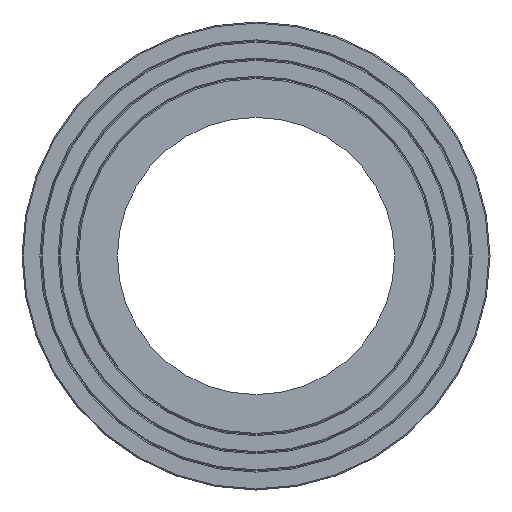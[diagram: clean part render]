
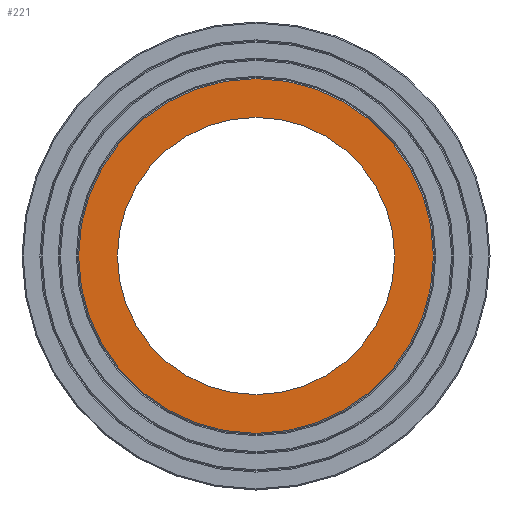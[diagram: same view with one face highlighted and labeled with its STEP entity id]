
A CAD part, left-side view. The second image highlights one B-rep face of the part: STEP entity #221.
In plain terms, the highlighted planar face has unit normal (-1, 0, 0).
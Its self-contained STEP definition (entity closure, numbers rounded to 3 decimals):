
#36=ORIENTED_EDGE('',*,*,#76,.F.);
#37=ORIENTED_EDGE('',*,*,#77,.T.);
#76=EDGE_CURVE('',#96,#96,#116,.T.);
#77=EDGE_CURVE('',#97,#97,#117,.T.);
#96=VERTEX_POINT('',#383);
#97=VERTEX_POINT('',#385);
#116=CIRCLE('',#257,182.4);
#117=CIRCLE('',#258,233.5);
#136=EDGE_LOOP('',(#36));
#137=EDGE_LOOP('',(#37));
#176=FACE_BOUND('',#136,.T.);
#177=FACE_BOUND('',#137,.T.);
#215=PLANE('',#256);
#221=ADVANCED_FACE('',(#176,#177),#215,.F.);
#256=AXIS2_PLACEMENT_3D('',#381,#301,#302);
#257=AXIS2_PLACEMENT_3D('',#382,#303,#304);
#258=AXIS2_PLACEMENT_3D('',#384,#305,#306);
#301=DIRECTION('',(1.,0.,0.));
#302=DIRECTION('',(0.,0.,-1.));
#303=DIRECTION('',(-1.,0.,0.));
#304=DIRECTION('',(0.,0.,1.));
#305=DIRECTION('',(-1.,0.,0.));
#306=DIRECTION('',(0.,0.,1.));
#381=CARTESIAN_POINT('',(0.,0.,308.));
#382=CARTESIAN_POINT('',(0.,0.,0.));
#383=CARTESIAN_POINT('',(0.,0.,182.4));
#384=CARTESIAN_POINT('',(0.,0.,0.));
#385=CARTESIAN_POINT('',(0.,0.,233.5));
